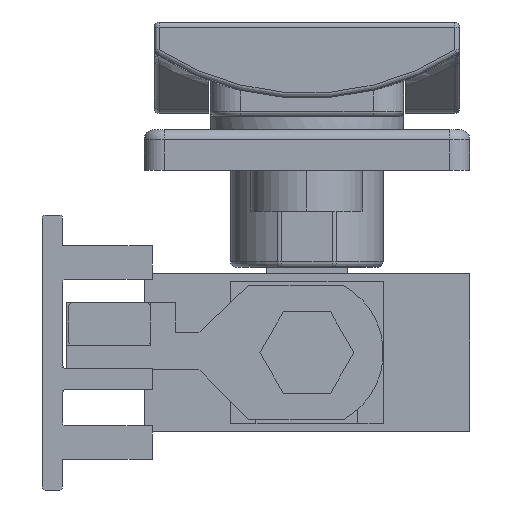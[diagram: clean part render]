
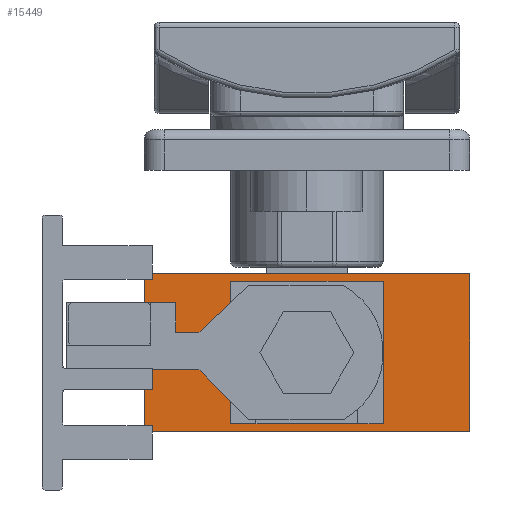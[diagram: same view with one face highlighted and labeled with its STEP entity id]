
A CAD part, front view. The second image highlights one B-rep face of the part: STEP entity #15449.
In plain terms, the highlighted planar face has unit normal (0, -1, 0).
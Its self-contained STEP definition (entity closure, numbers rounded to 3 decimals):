
#69 = DIRECTION ( 'NONE',  ( 1., 0., 0. ) ) ;
#1172 = CARTESIAN_POINT ( 'NONE',  ( 16., -72.75, -7.75 ) ) ;
#1395 = CARTESIAN_POINT ( 'NONE',  ( -7., -72.75, -6.25 ) ) ;
#1411 = EDGE_LOOP ( 'NONE', ( #15658, #15349, #5067, #5747 ) ) ;
#1519 = CARTESIAN_POINT ( 'NONE',  ( -16., -72.75, 7.75 ) ) ;
#2131 = ORIENTED_EDGE ( 'NONE', *, *, #9720, .T. ) ;
#2344 = DIRECTION ( 'NONE',  ( -1., 0., 0. ) ) ;
#2843 = LINE ( 'NONE', #11801, #11271 ) ;
#2965 = VERTEX_POINT ( 'NONE', #11714 ) ;
#2984 = VERTEX_POINT ( 'NONE', #8594 ) ;
#3003 = FACE_OUTER_BOUND ( 'NONE', #8801, .T. ) ;
#3250 = VECTOR ( 'NONE', #17449, 1000. ) ;
#3324 = EDGE_CURVE ( 'NONE', #11781, #18529, #15608, .T. ) ;
#3437 = VECTOR ( 'NONE', #8639, 1000. ) ;
#3596 = AXIS2_PLACEMENT_3D ( 'NONE', #1519, #7483, #5988 ) ;
#3618 = LINE ( 'NONE', #5628, #3250 ) ;
#4424 = DIRECTION ( 'NONE',  ( 0., 0., -1. ) ) ;
#4453 = FACE_BOUND ( 'NONE', #1411, .T. ) ;
#5067 = ORIENTED_EDGE ( 'NONE', *, *, #10549, .F. ) ;
#5628 = CARTESIAN_POINT ( 'NONE',  ( 7., -72.75, 6.25 ) ) ;
#5747 = ORIENTED_EDGE ( 'NONE', *, *, #14961, .F. ) ;
#5828 = LINE ( 'NONE', #11789, #18362 ) ;
#5988 = DIRECTION ( 'NONE',  ( 0., 0., 1. ) ) ;
#6402 = EDGE_CURVE ( 'NONE', #2965, #14216, #5828, .T. ) ;
#6880 = EDGE_CURVE ( 'NONE', #14692, #11781, #12569, .T. ) ;
#7483 = DIRECTION ( 'NONE',  ( 0., 1., 0. ) ) ;
#7539 = ORIENTED_EDGE ( 'NONE', *, *, #8031, .T. ) ;
#7614 = EDGE_CURVE ( 'NONE', #14216, #9594, #17522, .T. ) ;
#8031 = EDGE_CURVE ( 'NONE', #2965, #10296, #9094, .T. ) ;
#8594 = CARTESIAN_POINT ( 'NONE',  ( 7., -72.75, -6.25 ) ) ;
#8639 = DIRECTION ( 'NONE',  ( 0., 0., -1. ) ) ;
#8801 = EDGE_LOOP ( 'NONE', ( #2131, #11376, #14259, #7539 ) ) ;
#8878 = VECTOR ( 'NONE', #9950, 1000. ) ;
#8909 = CARTESIAN_POINT ( 'NONE',  ( 16., -72.75, 7.75 ) ) ;
#8939 = PLANE ( 'NONE',  #3596 ) ;
#9039 = VECTOR ( 'NONE', #2344, 1000. ) ;
#9094 = LINE ( 'NONE', #16243, #13077 ) ;
#9594 = VERTEX_POINT ( 'NONE', #1172 ) ;
#9720 = EDGE_CURVE ( 'NONE', #10296, #9594, #2843, .T. ) ;
#9950 = DIRECTION ( 'NONE',  ( 1., 0., 0. ) ) ;
#10296 = VERTEX_POINT ( 'NONE', #13109 ) ;
#10549 = EDGE_CURVE ( 'NONE', #2984, #14692, #3618, .T. ) ;
#11271 = VECTOR ( 'NONE', #69, 1000. ) ;
#11376 = ORIENTED_EDGE ( 'NONE', *, *, #7614, .F. ) ;
#11714 = CARTESIAN_POINT ( 'NONE',  ( -16., -72.75, 7.75 ) ) ;
#11781 = VERTEX_POINT ( 'NONE', #16546 ) ;
#11789 = CARTESIAN_POINT ( 'NONE',  ( -16., -72.75, 7.75 ) ) ;
#11801 = CARTESIAN_POINT ( 'NONE',  ( -16., -72.75, -7.75 ) ) ;
#12378 = CARTESIAN_POINT ( 'NONE',  ( 7., -72.75, 6.25 ) ) ;
#12569 = LINE ( 'NONE', #12378, #9039 ) ;
#13057 = CARTESIAN_POINT ( 'NONE',  ( 7., -72.75, 6.25 ) ) ;
#13077 = VECTOR ( 'NONE', #4424, 1000. ) ;
#13109 = CARTESIAN_POINT ( 'NONE',  ( -16., -72.75, -7.75 ) ) ;
#13357 = CARTESIAN_POINT ( 'NONE',  ( -7., -72.75, -6.25 ) ) ;
#14216 = VERTEX_POINT ( 'NONE', #8909 ) ;
#14231 = DIRECTION ( 'NONE',  ( 0., 0., -1. ) ) ;
#14259 = ORIENTED_EDGE ( 'NONE', *, *, #6402, .F. ) ;
#14629 = LINE ( 'NONE', #13357, #8878 ) ;
#14692 = VERTEX_POINT ( 'NONE', #13057 ) ;
#14961 = EDGE_CURVE ( 'NONE', #18529, #2984, #14629, .T. ) ;
#15349 = ORIENTED_EDGE ( 'NONE', *, *, #6880, .F. ) ;
#15449 = ADVANCED_FACE ( 'NONE', ( #4453, #3003 ), #8939, .F. ) ;
#15505 = CARTESIAN_POINT ( 'NONE',  ( -7., -72.75, -6.25 ) ) ;
#15608 = LINE ( 'NONE', #15505, #17903 ) ;
#15658 = ORIENTED_EDGE ( 'NONE', *, *, #3324, .F. ) ;
#16074 = CARTESIAN_POINT ( 'NONE',  ( 16., -72.75, 7.75 ) ) ;
#16243 = CARTESIAN_POINT ( 'NONE',  ( -16., -72.75, 7.75 ) ) ;
#16546 = CARTESIAN_POINT ( 'NONE',  ( -7., -72.75, 6.25 ) ) ;
#17449 = DIRECTION ( 'NONE',  ( 0., 0., 1. ) ) ;
#17522 = LINE ( 'NONE', #16074, #3437 ) ;
#17743 = DIRECTION ( 'NONE',  ( 1., 0., 0. ) ) ;
#17903 = VECTOR ( 'NONE', #14231, 1000. ) ;
#18362 = VECTOR ( 'NONE', #17743, 1000. ) ;
#18529 = VERTEX_POINT ( 'NONE', #1395 ) ;
